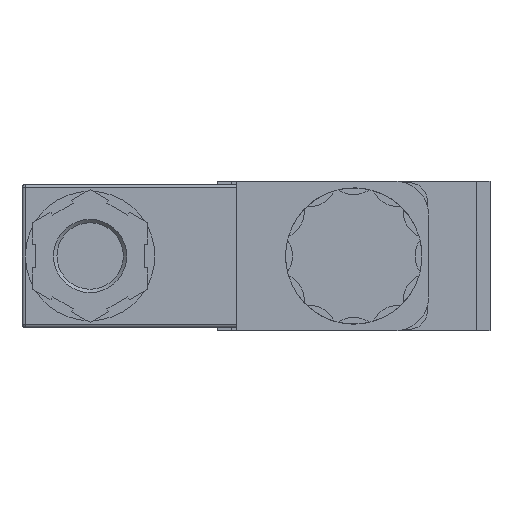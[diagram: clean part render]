
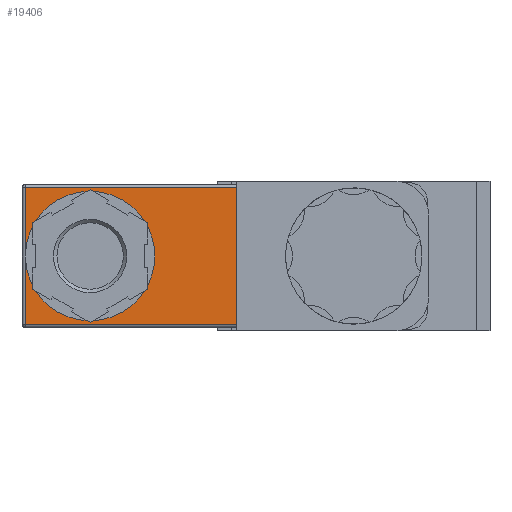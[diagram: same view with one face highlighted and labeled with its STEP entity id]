
A CAD part, left-side view. The second image highlights one B-rep face of the part: STEP entity #19406.
In plain terms, the highlighted planar face has unit normal (-1, 0, 0).
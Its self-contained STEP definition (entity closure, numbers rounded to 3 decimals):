
#511=CIRCLE('',#20260,9.5);
#1040=ORIENTED_EDGE('',*,*,#4728,.T.);
#1041=ORIENTED_EDGE('',*,*,#4843,.T.);
#1042=ORIENTED_EDGE('',*,*,#4844,.T.);
#1043=ORIENTED_EDGE('',*,*,#4815,.F.);
#1044=ORIENTED_EDGE('',*,*,#4845,.T.);
#1045=ORIENTED_EDGE('',*,*,#4846,.T.);
#4728=EDGE_CURVE('',#6651,#6650,#7993,.T.);
#4815=EDGE_CURVE('',#6722,#6722,#511,.F.);
#4843=EDGE_CURVE('',#6650,#6743,#8095,.F.);
#4844=EDGE_CURVE('',#6743,#6722,#8096,.F.);
#4845=EDGE_CURVE('',#6722,#6744,#8097,.F.);
#4846=EDGE_CURVE('',#6744,#6651,#8098,.F.);
#6650=VERTEX_POINT('',#25007);
#6651=VERTEX_POINT('',#25009);
#6722=VERTEX_POINT('',#25181);
#6743=VERTEX_POINT('',#25243);
#6744=VERTEX_POINT('',#25246);
#7993=LINE('',#25008,#9374);
#8095=LINE('',#25242,#9476);
#8096=LINE('',#25244,#9477);
#8097=LINE('',#25245,#9478);
#8098=LINE('',#25247,#9479);
#9374=VECTOR('',#21381,1000.);
#9476=VECTOR('',#21563,1000.);
#9477=VECTOR('',#21564,1000.);
#9478=VECTOR('',#21565,1000.);
#9479=VECTOR('',#21566,1000.);
#10775=EDGE_LOOP('',(#1040,#1041,#1042,#1043,#1044,#1045));
#11893=FACE_BOUND('',#10775,.T.);
#13004=PLANE('',#20279);
#19406=ADVANCED_FACE('',(#11893),#13004,.F.);
#20260=AXIS2_PLACEMENT_3D('',#25180,#21502,#21503);
#20279=AXIS2_PLACEMENT_3D('',#25241,#21561,#21562);
#21381=DIRECTION('',(0.,0.,1.));
#21502=DIRECTION('',(1.,0.,0.));
#21503=DIRECTION('',(0.,0.,1.));
#21561=DIRECTION('',(1.,0.,0.));
#21562=DIRECTION('',(0.,0.,1.));
#21563=DIRECTION('',(0.,-1.,0.));
#21564=DIRECTION('',(0.,0.,1.));
#21565=DIRECTION('',(0.,0.,1.));
#21566=DIRECTION('',(0.,1.,0.));
#25007=CARTESIAN_POINT('',(-115.,17.2,10.));
#25008=CARTESIAN_POINT('',(-115.,17.2,-7.5));
#25009=CARTESIAN_POINT('',(-115.,17.2,-10.));
#25180=CARTESIAN_POINT('',(-115.,38.7,0.));
#25181=CARTESIAN_POINT('',(-115.,48.2,0.));
#25241=CARTESIAN_POINT('',(-115.,45.7,6.245));
#25242=CARTESIAN_POINT('',(-115.,45.7,10.));
#25243=CARTESIAN_POINT('',(-115.,48.2,10.));
#25244=CARTESIAN_POINT('',(-115.,48.2,-10.5));
#25245=CARTESIAN_POINT('',(-115.,48.2,-10.5));
#25246=CARTESIAN_POINT('',(-115.,48.2,-10.));
#25247=CARTESIAN_POINT('',(-115.,45.7,-10.));
